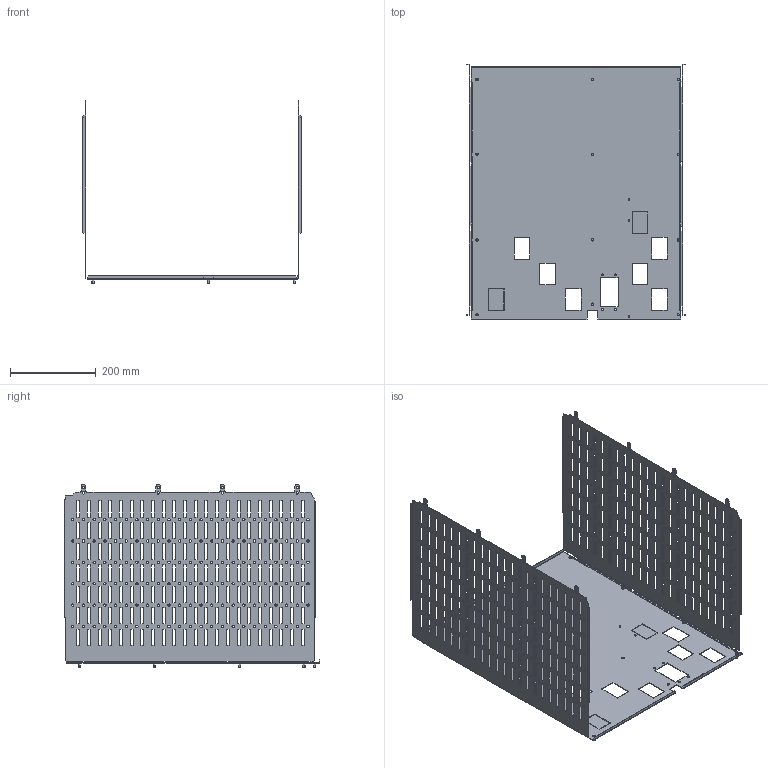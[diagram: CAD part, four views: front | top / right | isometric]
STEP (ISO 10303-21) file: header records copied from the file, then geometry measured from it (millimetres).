
FILE_DESCRIPTION(('CAx-IF Rec.Pracs.---Model Styling and Organization---1.2---2011-12-15','CAx-IF Rec.Pracs.---Geometric and Assembly Validation Properties---4.1---2014-06-16','CAx-IF Rec.Pracs.---PMI Polyline Presentation---2.0---2013-05-24'),'2;1');
FILE_NAME('R5M2W12M1A66.stp','2021-05-05T12:39:33+03:00',(''),(''),'STEP Interface 4.4 by CT CoreTechnologie','3D_Evolution4.4 by CT CoreTechnologie','');
FILE_SCHEMA(('AUTOMOTIVE_DESIGN { 1 0 10303 214 1 1 1 1 }'));
Length unit declared in the file: millimetre
Products named in the file (5): R5M2W12M1A66; RB.1257.00.00.0_-19; M5x8-DIN7500C_stright; RB.1285.00.00.0_-16; RB.1285.00.00.0_-17
Assembly tree (15 placements, depth 2):
  R5M2W12M1A66
    RB.1257.00.00.0_-19
    M5x8-DIN7500C_stright  x12
    RB.1285.00.00.0_-16
    RB.1285.00.00.0_-17
Bounding box: 510 x 597.5 x 428.6 mm (x, y, z)
Surface area: 1388652.9 mm2 (no closed solid volume)
Topology: 0 solids, 17 shells, 2224 faces, 6634 edges, 4428 vertices
Faces by surface type: plane 1504, cylinder 720
Entity records: 76572 total; most frequent: CARTESIAN_POINT 13148, ORIENTED_EDGE 13136, DIRECTION 12360, EDGE_CURVE 6568, VECTOR 5168, LINE 5168, VERTEX_POINT 4384, AXIS2_PLACEMENT_3D 3596
